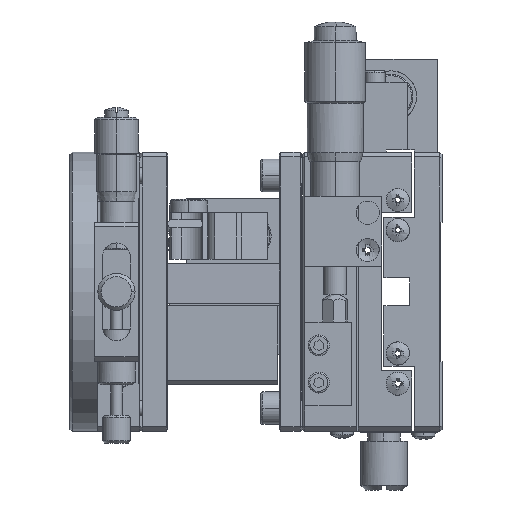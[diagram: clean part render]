
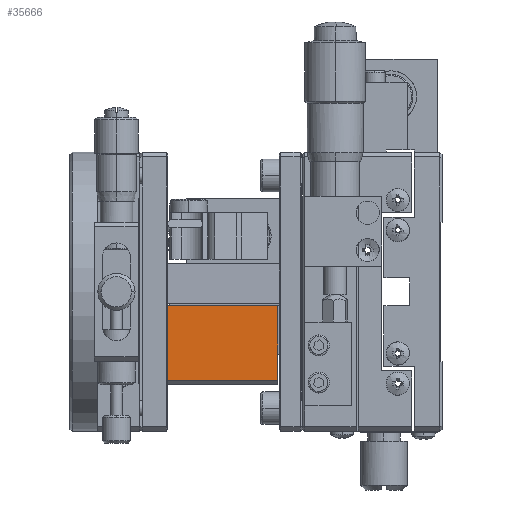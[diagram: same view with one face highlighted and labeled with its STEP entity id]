
A CAD part, left-side view. The second image highlights one B-rep face of the part: STEP entity #35666.
In plain terms, the highlighted planar face has unit normal (-1, 0, 0).
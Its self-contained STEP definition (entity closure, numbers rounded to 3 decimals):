
#897 = EDGE_CURVE ( 'NONE', #22941, #8538, #23611, .T. ) ;
#2426 = CARTESIAN_POINT ( 'NONE',  ( -38.131, 20.175, 82.465 ) ) ;
#4583 = CARTESIAN_POINT ( 'NONE',  ( -38.131, -3.525, 98.465 ) ) ;
#4704 = LINE ( 'NONE', #49173, #17418 ) ;
#7935 = CARTESIAN_POINT ( 'NONE',  ( -38.131, -3.525, 98.465 ) ) ;
#8538 = VERTEX_POINT ( 'NONE', #16044 ) ;
#11488 = PLANE ( 'NONE',  #21578 ) ;
#13236 = CARTESIAN_POINT ( 'NONE',  ( -38.131, 20.175, 98.465 ) ) ;
#13625 = VERTEX_POINT ( 'NONE', #13236 ) ;
#14803 = FACE_OUTER_BOUND ( 'NONE', #33938, .T. ) ;
#15402 = ORIENTED_EDGE ( 'NONE', *, *, #897, .T. ) ;
#15482 = EDGE_CURVE ( 'NONE', #20841, #13625, #4704, .T. ) ;
#16044 = CARTESIAN_POINT ( 'NONE',  ( -38.131, -3.525, 82.465 ) ) ;
#16596 = DIRECTION ( 'NONE',  ( 0., 1., 0. ) ) ;
#17418 = VECTOR ( 'NONE', #16596, 1000. ) ;
#18924 = LINE ( 'NONE', #36724, #39047 ) ;
#19904 = VECTOR ( 'NONE', #21853, 1000. ) ;
#20822 = EDGE_CURVE ( 'NONE', #13625, #22941, #18924, .T. ) ;
#20841 = VERTEX_POINT ( 'NONE', #4583 ) ;
#21578 = AXIS2_PLACEMENT_3D ( 'NONE', #7935, #27718, #31965 ) ;
#21853 = DIRECTION ( 'NONE',  ( 0., -1., 0. ) ) ;
#22193 = CARTESIAN_POINT ( 'NONE',  ( -38.131, -3.525, 82.465 ) ) ;
#22940 = DIRECTION ( 'NONE',  ( 0., 0., -1. ) ) ;
#22941 = VERTEX_POINT ( 'NONE', #2426 ) ;
#23611 = LINE ( 'NONE', #22193, #19904 ) ;
#27412 = LINE ( 'NONE', #38977, #45694 ) ;
#27718 = DIRECTION ( 'NONE',  ( 1., 0., 0. ) ) ;
#31965 = DIRECTION ( 'NONE',  ( 0., 0., -1. ) ) ;
#33938 = EDGE_LOOP ( 'NONE', ( #49078, #15402, #51339, #38228 ) ) ;
#35539 = EDGE_CURVE ( 'NONE', #20841, #8538, #27412, .T. ) ;
#35666 = ADVANCED_FACE ( 'NONE', ( #14803 ), #11488, .F. ) ;
#36724 = CARTESIAN_POINT ( 'NONE',  ( -38.131, 20.175, 98.465 ) ) ;
#36881 = DIRECTION ( 'NONE',  ( 0., 0., -1. ) ) ;
#38228 = ORIENTED_EDGE ( 'NONE', *, *, #15482, .T. ) ;
#38977 = CARTESIAN_POINT ( 'NONE',  ( -38.131, -3.525, 98.465 ) ) ;
#39047 = VECTOR ( 'NONE', #36881, 1000. ) ;
#45694 = VECTOR ( 'NONE', #22940, 1000. ) ;
#49078 = ORIENTED_EDGE ( 'NONE', *, *, #20822, .T. ) ;
#49173 = CARTESIAN_POINT ( 'NONE',  ( -38.131, -6.525, 98.465 ) ) ;
#51339 = ORIENTED_EDGE ( 'NONE', *, *, #35539, .F. ) ;
